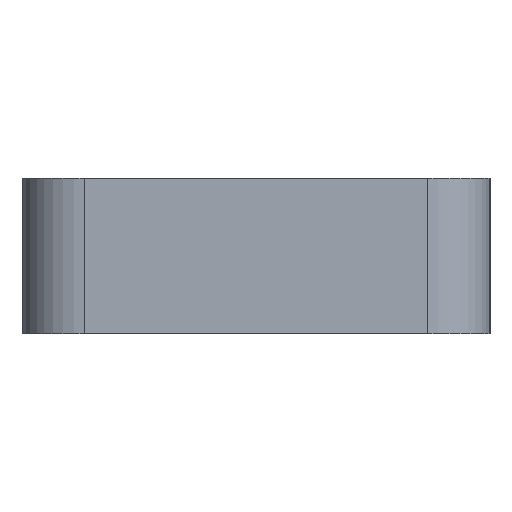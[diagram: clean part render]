
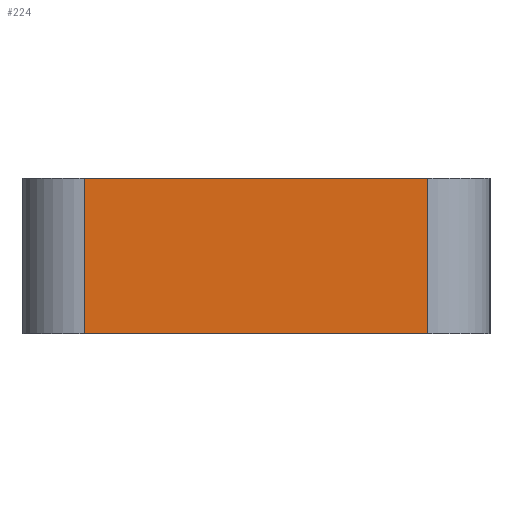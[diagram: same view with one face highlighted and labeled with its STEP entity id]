
A CAD part, left-side view. The second image highlights one B-rep face of the part: STEP entity #224.
In plain terms, the highlighted planar face has unit normal (-1, 0, 0).
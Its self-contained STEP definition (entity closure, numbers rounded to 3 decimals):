
#1 = VECTOR ( 'NONE', #637, 1000. ) ;
#10 = LINE ( 'NONE', #636, #59 ) ;
#41 = ORIENTED_EDGE ( 'NONE', *, *, #484, .F. ) ;
#46 = VERTEX_POINT ( 'NONE', #524 ) ;
#56 = LINE ( 'NONE', #248, #1 ) ;
#59 = VECTOR ( 'NONE', #565, 1000. ) ;
#75 = VECTOR ( 'NONE', #551, 1000. ) ;
#113 = EDGE_CURVE ( 'NONE', #131, #177, #333, .T. ) ;
#118 = DIRECTION ( 'NONE',  ( 0., 0., -1. ) ) ;
#131 = VERTEX_POINT ( 'NONE', #423 ) ;
#177 = VERTEX_POINT ( 'NONE', #620 ) ;
#198 = CARTESIAN_POINT ( 'NONE',  ( -70.769, 0., 2.5 ) ) ;
#218 = DIRECTION ( 'NONE',  ( 0., 0., -1. ) ) ;
#224 = ADVANCED_FACE ( 'NONE', ( #464 ), #312, .F. ) ;
#226 = ORIENTED_EDGE ( 'NONE', *, *, #332, .T. ) ;
#238 = EDGE_CURVE ( 'NONE', #251, #46, #513, .T. ) ;
#248 = CARTESIAN_POINT ( 'NONE',  ( -70.769, 0., 0. ) ) ;
#251 = VERTEX_POINT ( 'NONE', #553 ) ;
#287 = AXIS2_PLACEMENT_3D ( 'NONE', #198, #340, #218 ) ;
#290 = ORIENTED_EDGE ( 'NONE', *, *, #113, .F. ) ;
#303 = CARTESIAN_POINT ( 'NONE',  ( -70.769, -15.896, 2.5 ) ) ;
#312 = PLANE ( 'NONE',  #287 ) ;
#332 = EDGE_CURVE ( 'NONE', #46, #177, #56, .T. ) ;
#333 = LINE ( 'NONE', #303, #621 ) ;
#340 = DIRECTION ( 'NONE',  ( 1., 0., 0. ) ) ;
#423 = CARTESIAN_POINT ( 'NONE',  ( -70.769, -15.896, 2.5 ) ) ;
#464 = FACE_OUTER_BOUND ( 'NONE', #482, .T. ) ;
#479 = CARTESIAN_POINT ( 'NONE',  ( -70.769, -10.396, 2.5 ) ) ;
#482 = EDGE_LOOP ( 'NONE', ( #226, #290, #41, #590 ) ) ;
#484 = EDGE_CURVE ( 'NONE', #251, #131, #10, .T. ) ;
#513 = LINE ( 'NONE', #479, #75 ) ;
#524 = CARTESIAN_POINT ( 'NONE',  ( -70.769, -10.396, 0. ) ) ;
#551 = DIRECTION ( 'NONE',  ( 0., 0., -1. ) ) ;
#553 = CARTESIAN_POINT ( 'NONE',  ( -70.769, -10.396, 2.5 ) ) ;
#565 = DIRECTION ( 'NONE',  ( 0., -1., 0. ) ) ;
#590 = ORIENTED_EDGE ( 'NONE', *, *, #238, .T. ) ;
#620 = CARTESIAN_POINT ( 'NONE',  ( -70.769, -15.896, 0. ) ) ;
#621 = VECTOR ( 'NONE', #118, 1000. ) ;
#636 = CARTESIAN_POINT ( 'NONE',  ( -70.769, 0., 2.5 ) ) ;
#637 = DIRECTION ( 'NONE',  ( 0., -1., 0. ) ) ;
